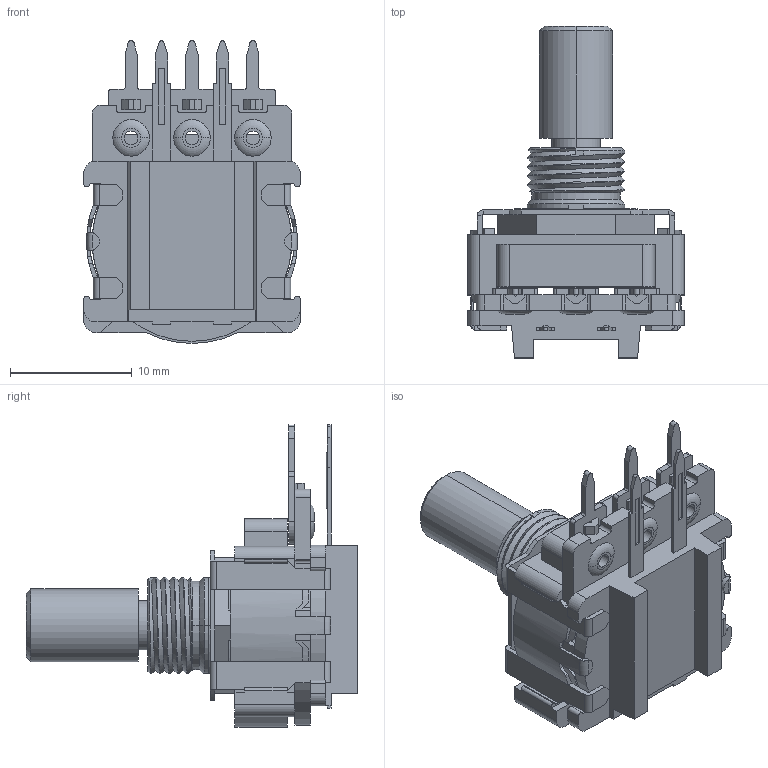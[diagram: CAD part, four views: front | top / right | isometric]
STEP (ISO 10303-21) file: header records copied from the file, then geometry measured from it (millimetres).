
FILE_DESCRIPTION (( 'STEP AP214' ), '1' );
FILE_NAME ('288XAA5R161B2.STEP', '2019-05-24T08:39:27', ( '' ), ( '' ), 'SwSTEP 2.0', 'SolidWorks 2019', '' );
FILE_SCHEMA (( 'AUTOMOTIVE_DESIGN' ));
Length unit declared in the file: millimetre
Products named in the file (9): 280-18-001-01-37(Roll over); 280-01-016-30-01(.093); 13M288S9252T; 280-08-T01 for with switch; 288D-B-2333C; 280-02-T06-40-01B; 280-95-002-00-00(for 016 base); 288-02-002-40-01B; 288XAA5R161B2
Assembly tree (11 placements, depth 3):
  288XAA5R161B2
    280-02-T06-40-01B
    288D-B-2333C
    280-95-002-00-00(for 016 base)
      280-01-016-30-01(.093)
      280-18-001-01-37(Roll over)  x4
    288-02-002-40-01B
    280-08-T01 for with switch
    13M288S9252T
Bounding box: 17.78 x 27.26 x 24.89 mm (x, y, z)
Volume: 2146.5 mm3; surface area: 4289.9 mm2
Topology: 10 solids, 10 shells, 745 faces, 2046 edges, 1336 vertices
Faces by surface type: plane 485, cylinder 199, cone 23, bspline 20, torus 18
Entity records: 22396 total; most frequent: CARTESIAN_POINT 5419, ORIENTED_EDGE 3426, DIRECTION 3215, EDGE_CURVE 1713, VECTOR 1187, LINE 1187, VERTEX_POINT 1120, AXIS2_PLACEMENT_3D 1014
